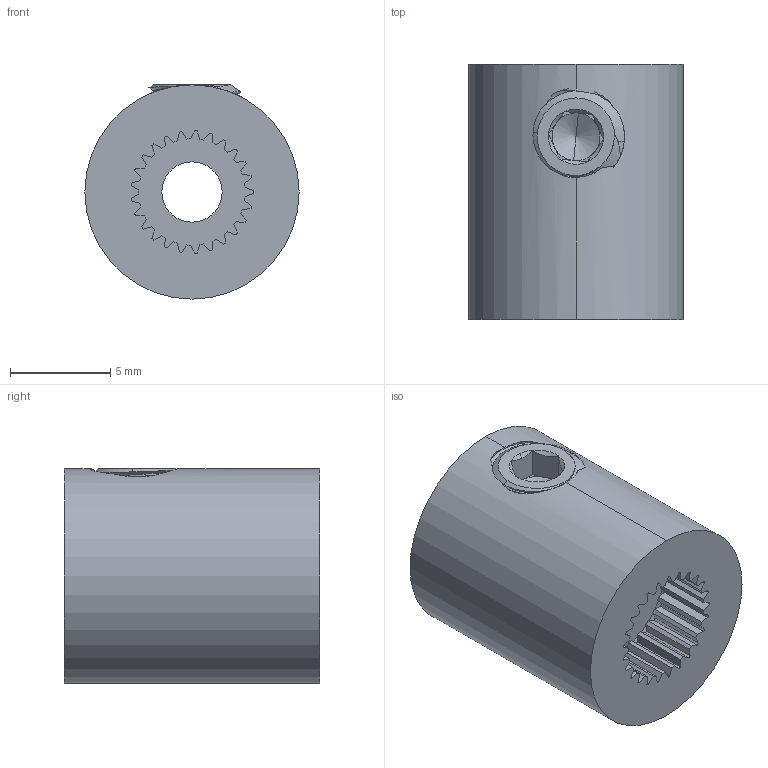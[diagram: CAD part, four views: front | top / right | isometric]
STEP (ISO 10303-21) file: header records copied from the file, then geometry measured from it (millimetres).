
FILE_DESCRIPTION (( 'STEP AP203' ), '1' );
FILE_NAME ('525136 assembly.STEP', '2016-08-08T16:30:11', ( '' ), ( '' ), 'SwSTEP 2.0', 'SolidWorks 2014', '' );
FILE_SCHEMA (( 'CONFIG_CONTROL_DESIGN' ));
Length unit declared in the file: inch
Products named in the file (3): 525136; 632134_91375A436; 525136 assembly
Assembly tree (2 placements, depth 2):
  525136 assembly
    525136
    632134_91375A436
Bounding box: 10.67 x 12.7 x 10.67 mm (x, y, z)
Volume: 773.8 mm3; surface area: 1007.4 mm2
Topology: 2 solids, 2 shells, 177 faces, 496 edges, 321 vertices
Faces by surface type: cylinder 81, plane 68, cone 16, bspline 12
Entity records: 11674 total; most frequent: CARTESIAN_POINT 6999, ORIENTED_EDGE 984, DIRECTION 865, EDGE_CURVE 492, VERTEX_POINT 321, AXIS2_PLACEMENT_3D 306, LINE 253, VECTOR 253
